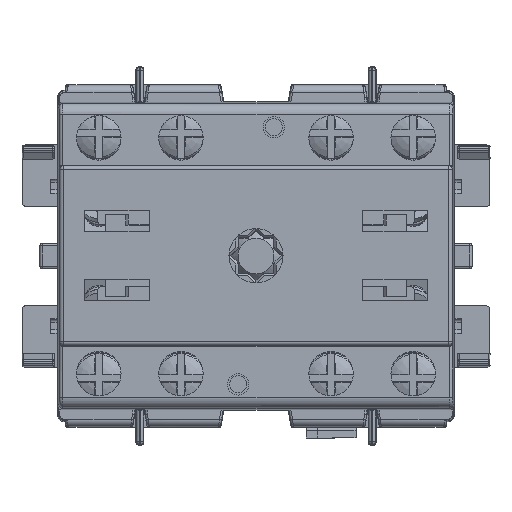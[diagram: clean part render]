
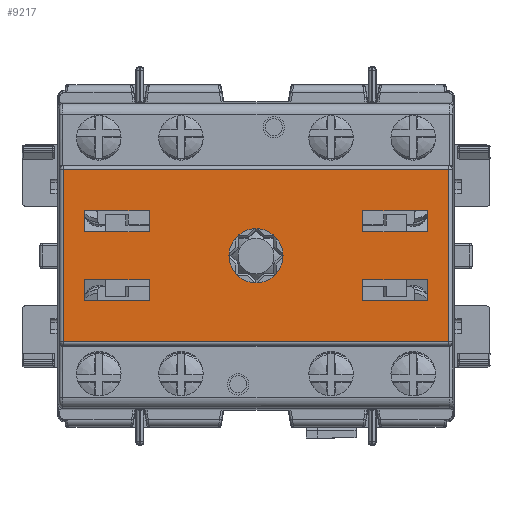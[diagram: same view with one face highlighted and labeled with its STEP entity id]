
A CAD part, top view. The second image highlights one B-rep face of the part: STEP entity #9217.
In plain terms, the highlighted planar face has unit normal (0, 0, 1).
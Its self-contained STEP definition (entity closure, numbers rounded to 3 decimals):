
#2241=FACE_BOUND('',#19480,.T.);
#2242=FACE_BOUND('',#19481,.T.);
#2243=FACE_BOUND('',#19482,.T.);
#2244=FACE_BOUND('',#19483,.T.);
#2245=FACE_BOUND('',#19484,.T.);
#2246=FACE_BOUND('',#19485,.T.);
#5147=PLANE('',#88750);
#9217=ADVANCED_FACE('',(#2241,#2242,#2243,#2244,#2245,#2246),#5147,.F.);
#19480=EDGE_LOOP('',(#54363));
#19481=EDGE_LOOP('',(#54364,#54365,#54366,#54367));
#19482=EDGE_LOOP('',(#54368,#54369,#54370,#54371));
#19483=EDGE_LOOP('',(#54372,#54373,#54374,#54375));
#19484=EDGE_LOOP('',(#54376,#54377,#54378,#54379));
#19485=EDGE_LOOP('',(#54380,#54381,#54382,#54383));
#26513=LINE('',#135492,#34798);
#26515=LINE('',#135495,#34800);
#26517=LINE('',#135498,#34802);
#26518=LINE('',#135500,#34803);
#26933=LINE('',#137092,#35218);
#26934=LINE('',#137095,#35219);
#26935=LINE('',#137097,#35220);
#26936=LINE('',#137099,#35221);
#26937=LINE('',#137100,#35222);
#26938=LINE('',#137103,#35223);
#26939=LINE('',#137105,#35224);
#26940=LINE('',#137107,#35225);
#26941=LINE('',#137108,#35226);
#26942=LINE('',#137111,#35227);
#26943=LINE('',#137113,#35228);
#26944=LINE('',#137115,#35229);
#26945=LINE('',#137116,#35230);
#26946=LINE('',#137119,#35231);
#26947=LINE('',#137121,#35232);
#26948=LINE('',#137123,#35233);
#34798=VECTOR('',#106108,1.);
#34800=VECTOR('',#106112,1.);
#34802=VECTOR('',#106116,1.);
#34803=VECTOR('',#106119,1.);
#35218=VECTOR('',#107454,1.);
#35219=VECTOR('',#107455,1.);
#35220=VECTOR('',#107456,1.);
#35221=VECTOR('',#107457,1.);
#35222=VECTOR('',#107458,1.);
#35223=VECTOR('',#107459,1.);
#35224=VECTOR('',#107460,1.);
#35225=VECTOR('',#107461,1.);
#35226=VECTOR('',#107462,1.);
#35227=VECTOR('',#107463,1.);
#35228=VECTOR('',#107464,1.);
#35229=VECTOR('',#107465,1.);
#35230=VECTOR('',#107466,1.);
#35231=VECTOR('',#107467,1.);
#35232=VECTOR('',#107468,1.);
#35233=VECTOR('',#107469,1.);
#54363=ORIENTED_EDGE('',*,*,#77394,.T.);
#54364=ORIENTED_EDGE('',*,*,#77393,.F.);
#54365=ORIENTED_EDGE('',*,*,#77388,.F.);
#54366=ORIENTED_EDGE('',*,*,#77390,.F.);
#54367=ORIENTED_EDGE('',*,*,#77392,.F.);
#54368=ORIENTED_EDGE('',*,*,#78044,.F.);
#54369=ORIENTED_EDGE('',*,*,#78045,.F.);
#54370=ORIENTED_EDGE('',*,*,#78046,.F.);
#54371=ORIENTED_EDGE('',*,*,#78047,.F.);
#54372=ORIENTED_EDGE('',*,*,#78048,.F.);
#54373=ORIENTED_EDGE('',*,*,#78049,.F.);
#54374=ORIENTED_EDGE('',*,*,#78050,.F.);
#54375=ORIENTED_EDGE('',*,*,#78051,.F.);
#54376=ORIENTED_EDGE('',*,*,#78052,.F.);
#54377=ORIENTED_EDGE('',*,*,#78053,.F.);
#54378=ORIENTED_EDGE('',*,*,#78054,.F.);
#54379=ORIENTED_EDGE('',*,*,#78055,.F.);
#54380=ORIENTED_EDGE('',*,*,#78056,.F.);
#54381=ORIENTED_EDGE('',*,*,#78057,.F.);
#54382=ORIENTED_EDGE('',*,*,#78058,.F.);
#54383=ORIENTED_EDGE('',*,*,#78059,.F.);
#66695=VERTEX_POINT('',#134659);
#66697=VERTEX_POINT('',#134664);
#66699=VERTEX_POINT('',#134670);
#66702=VERTEX_POINT('',#134677);
#66891=VERTEX_POINT('',#135503);
#67310=VERTEX_POINT('',#137093);
#67311=VERTEX_POINT('',#137094);
#67312=VERTEX_POINT('',#137096);
#67313=VERTEX_POINT('',#137098);
#67314=VERTEX_POINT('',#137101);
#67315=VERTEX_POINT('',#137102);
#67316=VERTEX_POINT('',#137104);
#67317=VERTEX_POINT('',#137106);
#67318=VERTEX_POINT('',#137109);
#67319=VERTEX_POINT('',#137110);
#67320=VERTEX_POINT('',#137112);
#67321=VERTEX_POINT('',#137114);
#67322=VERTEX_POINT('',#137117);
#67323=VERTEX_POINT('',#137118);
#67324=VERTEX_POINT('',#137120);
#67325=VERTEX_POINT('',#137122);
#77388=EDGE_CURVE('',#66695,#66702,#26513,.T.);
#77390=EDGE_CURVE('',#66697,#66695,#26515,.T.);
#77392=EDGE_CURVE('',#66699,#66697,#26517,.T.);
#77393=EDGE_CURVE('',#66702,#66699,#26518,.T.);
#77394=EDGE_CURVE('',#66891,#66891,#82678,.T.);
#78044=EDGE_CURVE('',#67310,#67311,#26933,.T.);
#78045=EDGE_CURVE('',#67312,#67310,#26934,.T.);
#78046=EDGE_CURVE('',#67313,#67312,#26935,.T.);
#78047=EDGE_CURVE('',#67311,#67313,#26936,.T.);
#78048=EDGE_CURVE('',#67314,#67315,#26937,.T.);
#78049=EDGE_CURVE('',#67316,#67314,#26938,.T.);
#78050=EDGE_CURVE('',#67317,#67316,#26939,.T.);
#78051=EDGE_CURVE('',#67315,#67317,#26940,.T.);
#78052=EDGE_CURVE('',#67318,#67319,#26941,.T.);
#78053=EDGE_CURVE('',#67320,#67318,#26942,.T.);
#78054=EDGE_CURVE('',#67321,#67320,#26943,.T.);
#78055=EDGE_CURVE('',#67319,#67321,#26944,.T.);
#78056=EDGE_CURVE('',#67322,#67323,#26945,.T.);
#78057=EDGE_CURVE('',#67324,#67322,#26946,.T.);
#78058=EDGE_CURVE('',#67325,#67324,#26947,.T.);
#78059=EDGE_CURVE('',#67323,#67325,#26948,.T.);
#82678=CIRCLE('',#88291,3.789);
#88291=AXIS2_PLACEMENT_3D('',#135502,#106122,#106123);
#88750=AXIS2_PLACEMENT_3D('',#137124,#107470,#107471);
#106108=DIRECTION('',(0.,1.,0.));
#106112=DIRECTION('',(-1.,0.,0.));
#106116=DIRECTION('',(0.,-1.,0.));
#106119=DIRECTION('',(1.,0.,0.));
#106122=DIRECTION('',(0.,0.,-1.));
#106123=DIRECTION('',(0.,1.,0.));
#107454=DIRECTION('',(-1.,0.,0.));
#107455=DIRECTION('',(0.,1.,0.));
#107456=DIRECTION('',(1.,0.,0.));
#107457=DIRECTION('',(0.,-1.,0.));
#107458=DIRECTION('',(-1.,0.,0.));
#107459=DIRECTION('',(0.,1.,0.));
#107460=DIRECTION('',(1.,0.,0.));
#107461=DIRECTION('',(0.,-1.,0.));
#107462=DIRECTION('',(-1.,0.,0.));
#107463=DIRECTION('',(0.,1.,0.));
#107464=DIRECTION('',(1.,0.,0.));
#107465=DIRECTION('',(0.,-1.,0.));
#107466=DIRECTION('',(-1.,0.,0.));
#107467=DIRECTION('',(0.,1.,0.));
#107468=DIRECTION('',(1.,0.,0.));
#107469=DIRECTION('',(0.,-1.,0.));
#107470=DIRECTION('',(0.,0.,-1.));
#107471=DIRECTION('',(-1.,0.,0.));
#134659=CARTESIAN_POINT('',(-26.988,-12.078,107.364));
#134664=CARTESIAN_POINT('',(26.988,-12.078,107.364));
#134670=CARTESIAN_POINT('',(26.988,12.078,107.364));
#134677=CARTESIAN_POINT('',(-26.988,12.078,107.364));
#135492=CARTESIAN_POINT('',(-26.988,0.393,107.364));
#135495=CARTESIAN_POINT('',(-0.475,-12.078,107.364));
#135498=CARTESIAN_POINT('',(26.988,0.393,107.364));
#135500=CARTESIAN_POINT('',(-0.475,12.078,107.364));
#135502=CARTESIAN_POINT('',(0.,0.,
107.364));
#135503=CARTESIAN_POINT('',(0.,3.789,107.364));
#137092=CARTESIAN_POINT('',(-23.978,-3.34,107.364));
#137093=CARTESIAN_POINT('',(23.978,-3.34,107.364));
#137094=CARTESIAN_POINT('',(14.955,-3.34,107.364));
#137095=CARTESIAN_POINT('',(23.978,0.786,107.364));
#137096=CARTESIAN_POINT('',(23.978,-6.281,107.364));
#137097=CARTESIAN_POINT('',(-14.955,-6.281,107.364));
#137098=CARTESIAN_POINT('',(14.955,-6.281,107.364));
#137099=CARTESIAN_POINT('',(14.955,0.786,107.364));
#137100=CARTESIAN_POINT('',(14.955,6.281,107.364));
#137101=CARTESIAN_POINT('',(-14.955,6.281,107.364));
#137102=CARTESIAN_POINT('',(-23.978,6.281,107.364));
#137103=CARTESIAN_POINT('',(-14.955,-3.34,107.364));
#137104=CARTESIAN_POINT('',(-14.955,3.34,107.364));
#137105=CARTESIAN_POINT('',(23.978,3.34,107.364));
#137106=CARTESIAN_POINT('',(-23.978,3.34,107.364));
#137107=CARTESIAN_POINT('',(-23.978,-6.281,107.364));
#137108=CARTESIAN_POINT('',(-0.95,-3.34,107.364));
#137109=CARTESIAN_POINT('',(-14.955,-3.34,107.364));
#137110=CARTESIAN_POINT('',(-23.978,-3.34,107.364));
#137111=CARTESIAN_POINT('',(-14.955,-3.34,107.364));
#137112=CARTESIAN_POINT('',(-14.955,-6.281,107.364));
#137113=CARTESIAN_POINT('',(-0.95,-6.281,107.364));
#137114=CARTESIAN_POINT('',(-23.978,-6.281,107.364));
#137115=CARTESIAN_POINT('',(-23.978,-6.281,107.364));
#137116=CARTESIAN_POINT('',(14.955,6.281,107.364));
#137117=CARTESIAN_POINT('',(23.978,6.281,107.364));
#137118=CARTESIAN_POINT('',(14.955,6.281,107.364));
#137119=CARTESIAN_POINT('',(23.978,-6.281,107.364));
#137120=CARTESIAN_POINT('',(23.978,3.34,107.364));
#137121=CARTESIAN_POINT('',(23.978,3.34,107.364));
#137122=CARTESIAN_POINT('',(14.955,3.34,107.364));
#137123=CARTESIAN_POINT('',(14.955,-3.34,107.364));
#137124=CARTESIAN_POINT('',(-0.95,0.786,107.364));
